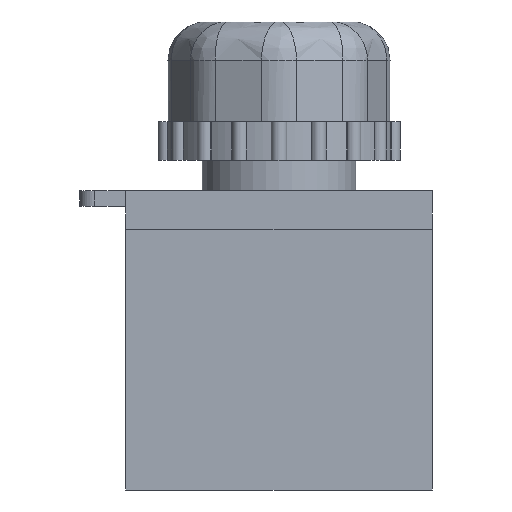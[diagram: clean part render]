
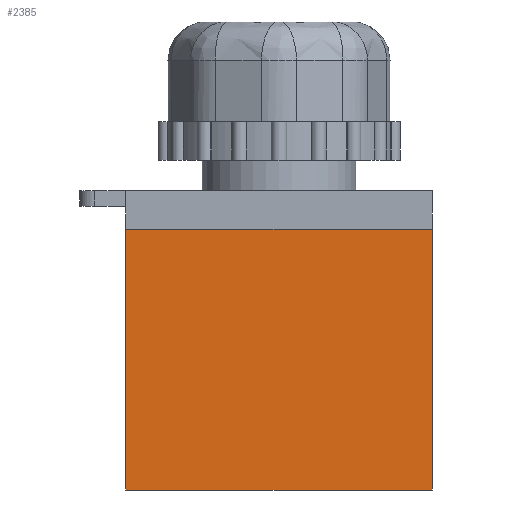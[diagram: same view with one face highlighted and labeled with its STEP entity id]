
A CAD part, front view. The second image highlights one B-rep face of the part: STEP entity #2385.
In plain terms, the highlighted planar face has unit normal (0, -1, 0).
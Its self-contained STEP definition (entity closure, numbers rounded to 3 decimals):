
#240=FACE_OUTER_BOUND('',#383,.T.);
#383=EDGE_LOOP('',(#1598,#1599,#1600,#1601));
#531=LINE('',#3515,#757);
#533=LINE('',#3519,#759);
#536=LINE('',#3524,#762);
#537=LINE('',#3526,#763);
#757=VECTOR('',#2790,10.);
#759=VECTOR('',#2794,10.);
#762=VECTOR('',#2799,10.);
#763=VECTOR('',#2802,10.);
#982=VERTEX_POINT('',#3512);
#983=VERTEX_POINT('',#3514);
#984=VERTEX_POINT('',#3518);
#985=VERTEX_POINT('',#3522);
#1221=EDGE_CURVE('',#983,#982,#531,.T.);
#1223=EDGE_CURVE('',#984,#983,#533,.T.);
#1226=EDGE_CURVE('',#985,#982,#536,.T.);
#1227=EDGE_CURVE('',#984,#985,#537,.T.);
#1598=ORIENTED_EDGE('',*,*,#1223,.T.);
#1599=ORIENTED_EDGE('',*,*,#1221,.T.);
#1600=ORIENTED_EDGE('',*,*,#1226,.F.);
#1601=ORIENTED_EDGE('',*,*,#1227,.F.);
#2307=PLANE('',#2537);
#2385=ADVANCED_FACE('',(#240),#2307,.T.);
#2537=AXIS2_PLACEMENT_3D('',#3527,#2803,#2804);
#2790=DIRECTION('',(0.,0.,1.));
#2794=DIRECTION('',(1.,0.,0.));
#2799=DIRECTION('',(1.,0.,0.));
#2802=DIRECTION('',(0.,0.,1.));
#2803=DIRECTION('center_axis',(0.,-1.,0.));
#2804=DIRECTION('ref_axis',(1.,0.,0.));
#3512=CARTESIAN_POINT('',(20.,-15.5,34.));
#3514=CARTESIAN_POINT('',(20.,-15.5,0.));
#3515=CARTESIAN_POINT('',(20.,-15.5,0.));
#3518=CARTESIAN_POINT('',(-20.,-15.5,0.));
#3519=CARTESIAN_POINT('',(-20.,-15.5,0.));
#3522=CARTESIAN_POINT('',(-20.,-15.5,34.));
#3524=CARTESIAN_POINT('',(-20.,-15.5,34.));
#3526=CARTESIAN_POINT('',(-20.,-15.5,0.));
#3527=CARTESIAN_POINT('Origin',(-20.,-15.5,0.));
